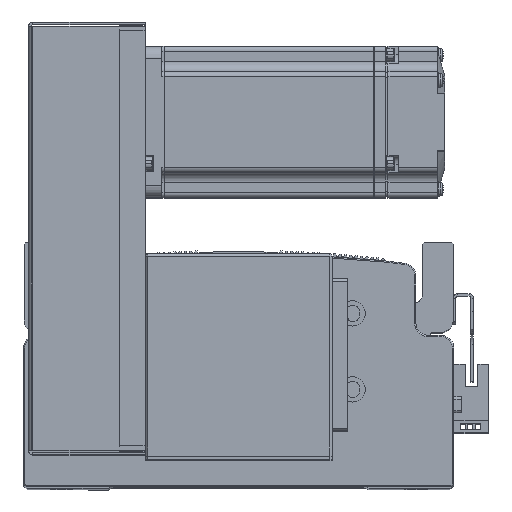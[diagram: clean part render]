
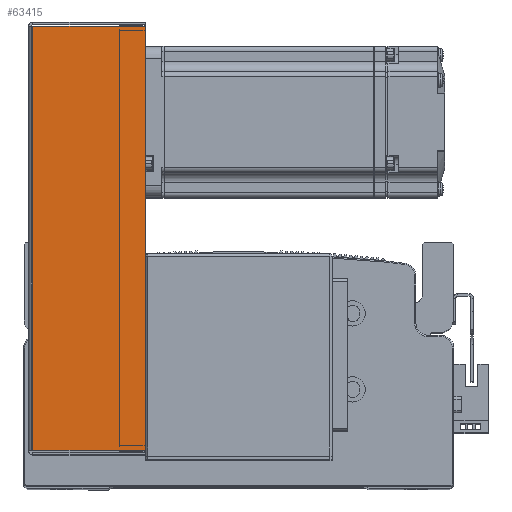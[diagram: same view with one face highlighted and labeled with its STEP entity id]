
A CAD part, top view. The second image highlights one B-rep face of the part: STEP entity #63415.
In plain terms, the highlighted planar face has unit normal (0, 0, 1) as drawn and (0, 0, -1) by its records, which use the part's own axes.
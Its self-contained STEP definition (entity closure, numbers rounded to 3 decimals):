
#4950 = ORIENTED_EDGE ( 'NONE', *, *, #54992, .T. ) ;
#4951 = ORIENTED_EDGE ( 'NONE', *, *, #55114, .T. ) ;
#4999 = ORIENTED_EDGE ( 'NONE', *, *, #54867, .F. ) ;
#5014 = ORIENTED_EDGE ( 'NONE', *, *, #54985, .F. ) ;
#9263 = FACE_OUTER_BOUND ( 'NONE', #62044, .T. ) ;
#12100 = PLANE ( 'NONE',  #51406 ) ;
#12113 = DIRECTION ( 'NONE',  ( 0., -1., 0. ) ) ;
#12134 = DIRECTION ( 'NONE',  ( 0., 0., 1. ) ) ;
#12137 = CARTESIAN_POINT ( 'NONE',  ( 0., 0., -40.5 ) ) ;
#29204 = VERTEX_POINT ( 'NONE', #43833 ) ;
#29215 = VERTEX_POINT ( 'NONE', #43864 ) ;
#29226 = VERTEX_POINT ( 'NONE', #43819 ) ;
#29227 = VERTEX_POINT ( 'NONE', #43877 ) ;
#43819 = CARTESIAN_POINT ( 'NONE',  ( -83.793, 45., -40.5 ) ) ;
#43833 = CARTESIAN_POINT ( 'NONE',  ( -83.793, 0.737, -40.5 ) ) ;
#43864 = CARTESIAN_POINT ( 'NONE',  ( 83.793, 0.737, -40.5 ) ) ;
#43877 = CARTESIAN_POINT ( 'NONE',  ( 83.793, 45., -40.5 ) ) ;
#51406 = AXIS2_PLACEMENT_3D ( 'NONE', #12137, #12134, #12113 ) ;
#52902 = CARTESIAN_POINT ( 'NONE',  ( 83.793, 0., -40.5 ) ) ;
#52922 = DIRECTION ( 'NONE',  ( 0., 1., 0. ) ) ;
#53065 = CARTESIAN_POINT ( 'NONE',  ( 0., 0.737, -40.5 ) ) ;
#53069 = DIRECTION ( 'NONE',  ( 1., 0., 0. ) ) ;
#53070 = CARTESIAN_POINT ( 'NONE',  ( -83.793, 0., -40.5 ) ) ;
#53085 = DIRECTION ( 'NONE',  ( 0., 1., 0. ) ) ;
#53228 = CARTESIAN_POINT ( 'NONE',  ( 84.5, 45., -40.5 ) ) ;
#53229 = DIRECTION ( 'NONE',  ( 1., 0., 0. ) ) ;
#53775 = VECTOR ( 'NONE', #52922, 1000. ) ;
#53790 = LINE ( 'NONE', #52902, #53775 ) ;
#53800 = LINE ( 'NONE', #53070, #53841 ) ;
#53831 = VECTOR ( 'NONE', #53069, 1000. ) ;
#53841 = VECTOR ( 'NONE', #53085, 1000. ) ;
#53860 = LINE ( 'NONE', #53065, #53831 ) ;
#53884 = LINE ( 'NONE', #53228, #53896 ) ;
#53896 = VECTOR ( 'NONE', #53229, 1000. ) ;
#54867 = EDGE_CURVE ( 'NONE', #29215, #29227, #53790, .T. ) ;
#54985 = EDGE_CURVE ( 'NONE', #29204, #29215, #53860, .T. ) ;
#54992 = EDGE_CURVE ( 'NONE', #29204, #29226, #53800, .T. ) ;
#55114 = EDGE_CURVE ( 'NONE', #29226, #29227, #53884, .T. ) ;
#62044 = EDGE_LOOP ( 'NONE', ( #5014, #4950, #4951, #4999 ) ) ;
#63415 = ADVANCED_FACE ( 'NONE', ( #9263 ), #12100, .F. ) ;
